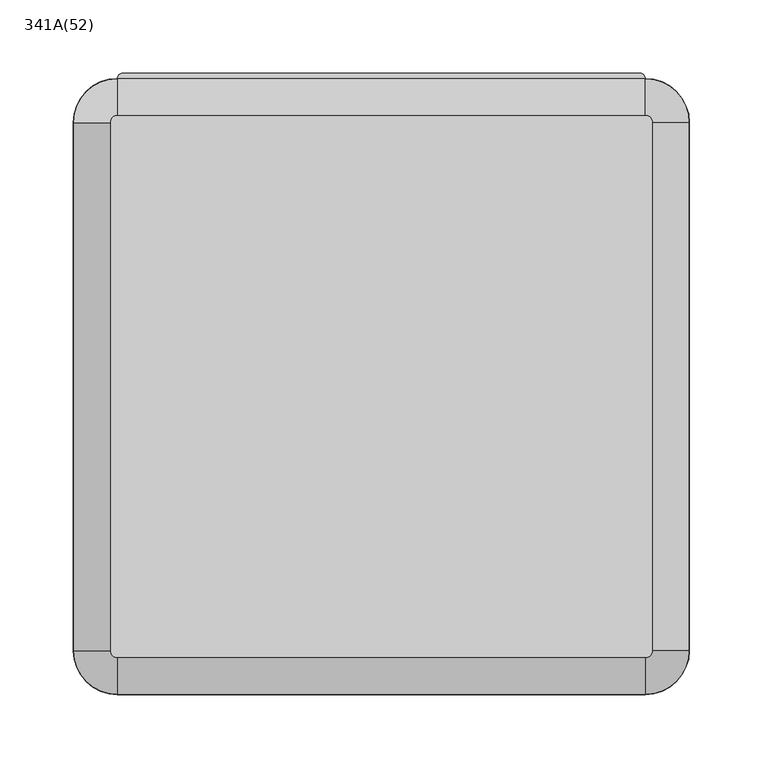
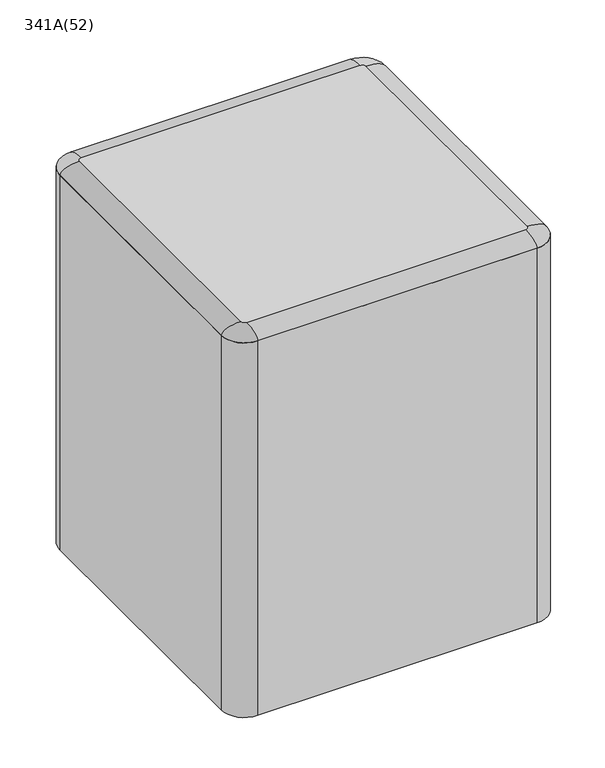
"""IFC4 building model written with IfcOpenShell, lengths in millimetres: furniture geometry, Bit Stool : 341A(52)."""

import ifcopenshell
import ifcopenshell.guid

model = None  # the IFC model being written
_history = None  # IfcOwnerHistory: only IFC2X3 demands one
_inside = {}  # id of a spatial element -> (the spatial element, [elements in it])
_under = {}  # id of a project, library or spatial element -> (it, [spatial elements below it])
_declared = {}  # id of a project -> (the project, [libraries it declares])
_typed = {}  # id of a type object -> (the type object, [elements of that type])
_made_of = {}  # id of a material, layer set ... -> (it, [elements and type objects made of it])


def new_model(schema):
    """Start an empty IFC model of exactly this schema.

    Asked for "IFC4X3", IfcOpenShell would pick the latest addendum, in which some entities
    have other attributes; the version numbers below select the first issue.
    IFC2X3 requires an IfcOwnerHistory on every rooted entity: one is made here for all.
    """
    global model, _history
    if schema == "IFC4X3":
        model = ifcopenshell.file(schema_version=(4, 3, 0, 0))
    else:
        model = ifcopenshell.file(schema=schema)
    _inside.clear()
    _under.clear()
    _declared.clear()
    _typed.clear()
    _made_of.clear()
    _history = None
    if model.schema == "IFC2X3":
        org = make("IfcOrganization", Name="unknown")
        user = make(
            "IfcPersonAndOrganization",
            ThePerson=make("IfcPerson", FamilyName="unknown"),
            TheOrganization=org,
        )
        app = make(
            "IfcApplication",
            ApplicationDeveloper=org,
            Version="unknown",
            ApplicationFullName="unknown",
            ApplicationIdentifier="unknown",
        )
        _history = make(
            "IfcOwnerHistory",
            OwningUser=user,
            OwningApplication=app,
            ChangeAction="ADDED",
            CreationDate=0,
        )
    return model


def make(cls, **values):
    """One entity of the class cls with the attributes given. An attribute that is None is left unset."""
    return model.create_entity(
        cls, **{name: value for name, value in values.items() if value is not None}
    )


def rooted(cls, **values):
    """An entity with a GlobalId (a new one), such as an element, a storey or a relation."""
    return make(cls, GlobalId=ifcopenshell.guid.new(), OwnerHistory=_history, **values)


def si_unit(unit_type, name, prefix=None):
    """IfcSIUnit, for example si_unit("LENGTHUNIT", "METRE", prefix="MILLI")."""
    return make("IfcSIUnit", UnitType=unit_type, Prefix=prefix, Name=name)


def assignment(units):
    """IfcUnitAssignment: the units of a project."""
    return None if units is None else make("IfcUnitAssignment", Units=units)


def point(xyz):
    """IfcCartesianPoint."""
    return None if xyz is None else make("IfcCartesianPoint", Coordinates=xyz)


def direction(xyz):
    """IfcDirection."""
    return None if xyz is None else make("IfcDirection", DirectionRatios=xyz)


def frame(location, z_axis=None, x_axis=None):
    """IfcAxis2Placement3D, a coordinate frame: its origin and axes. An axis left out is left unset."""
    return make(
        "IfcAxis2Placement3D",
        Location=point(location),
        Axis=direction(z_axis),
        RefDirection=direction(x_axis),
    )


def origin():
    """The frame at (0, 0, 0) with its axes left unset."""
    return frame((0.0, 0.0, 0.0))


def place(relative_to, where):
    """IfcLocalPlacement: puts the frame where relative to a parent placement (None: the world)."""
    return make(
        "IfcLocalPlacement", PlacementRelTo=relative_to, RelativePlacement=where
    )


def context(
    kind, dimensions, precision=None, world=None, true_north=None, identifier=None
):
    """IfcGeometricRepresentationContext, for example the 3D "Model" context."""
    return make(
        "IfcGeometricRepresentationContext",
        ContextIdentifier=identifier,
        ContextType=kind,
        CoordinateSpaceDimension=dimensions,
        Precision=precision,
        WorldCoordinateSystem=world,
        TrueNorth=true_north,
    )


def project(units=None, contexts=None):
    """IfcProject with its units and contexts."""
    return rooted(
        "IfcProject",
        Name="project",
        RepresentationContexts=contexts,
        UnitsInContext=assignment(units),
    )


def spatial(cls, under=None, at=None, **own):
    """A site, building, storey or space (cls), placed at a placement, below another one or the project."""
    s = rooted(cls, ObjectPlacement=at, **own)
    if under is not None:
        _under.setdefault(under.id(), (under, []))[1].append(s)
    return s


def polyline(points):
    """IfcPolyline through the points."""
    return make("IfcPolyline", Points=[point(p) for p in points])


def circle_curve(where, radius):
    """IfcCircle in the frame where."""
    return make("IfcCircle", Position=where, Radius=radius)


def ellipse_curve(where, semi_axis1, semi_axis2):
    """IfcEllipse in the frame where."""
    return make(
        "IfcEllipse", Position=where, SemiAxis1=semi_axis1, SemiAxis2=semi_axis2
    )


def trimmed(basis, trim1, trim2, sense, master):
    """IfcTrimmedCurve: the piece of a basis curve between two trims."""
    return make(
        "IfcTrimmedCurve",
        BasisCurve=basis,
        Trim1=trim1,
        Trim2=trim2,
        SenseAgreement=sense,
        MasterRepresentation=master,
    )


def shape(context_of_items, identifier, shape_type, items):
    """IfcShapeRepresentation: the items that make up one representation, for example the "Body"."""
    return make(
        "IfcShapeRepresentation",
        ContextOfItems=context_of_items,
        RepresentationIdentifier=identifier,
        RepresentationType=shape_type,
        Items=items,
    )


def source(mapping_origin, context_of_items, identifier, shape_type, items):
    """IfcRepresentationMap: a shape defined once, which mapped items show again and again."""
    return make(
        "IfcRepresentationMap",
        MappingOrigin=mapping_origin,
        MappedRepresentation=shape(context_of_items, identifier, shape_type, items),
    )


def transform(
    local_origin,
    x_axis=None,
    y_axis=None,
    z_axis=None,
    scale=None,
    scale2=None,
    scale3=None,
    uniform=True,
):
    """IfcCartesianTransformationOperator3D, or its non-uniform kind. x_axis, y_axis, z_axis: its Axis1, 2, 3."""
    if uniform:
        return make(
            "IfcCartesianTransformationOperator3D",
            Axis1=direction(x_axis),
            Axis2=direction(y_axis),
            LocalOrigin=point(local_origin),
            Scale=scale,
            Axis3=direction(z_axis),
        )
    return make(
        "IfcCartesianTransformationOperator3DnonUniform",
        Axis1=direction(x_axis),
        Axis2=direction(y_axis),
        LocalOrigin=point(local_origin),
        Scale=scale,
        Axis3=direction(z_axis),
        Scale2=scale2,
        Scale3=scale3,
    )


def mapped(mapping_source, mapping_target):
    """IfcMappedItem: shows the shape of a source again, moved by a transform."""
    return make(
        "IfcMappedItem", MappingSource=mapping_source, MappingTarget=mapping_target
    )


def made_of(thing, what):
    """Note that an element or type object is made of a material, layer set ...; save() writes the relation."""
    if what is not None:
        _made_of.setdefault(what.id(), (what, []))[1].append(thing)
    return thing


def element(
    cls,
    number,
    at=None,
    inside=None,
    cuts=None,
    type_object=None,
    material=None,
    context=None,
    identifier="Body",
    shape_type=None,
    held_by="IfcProductDefinitionShape",
    body=None,
    shapes=None,
    **own,
):
    """One element of the class cls, such as IfcWall. Its Tag is "e" and its number.

    at: its placement. inside: the storey or other place that contains it. cuts: it is an
    opening in that element (IfcRelVoidsElement). A single representation is given by context,
    identifier, shape_type and body (its items); several are given by shapes. held_by: the class
    of the entity that holds the representations. save() writes the other relations.
    """
    e = rooted(cls, Tag="e%d" % number, ObjectPlacement=at, **own)
    if body is not None:
        shapes = [shape(context, identifier, shape_type, body)]
    if shapes is not None:
        e.Representation = make(held_by, Representations=shapes)
    if inside is not None:
        _inside.setdefault(inside.id(), (inside, []))[1].append(e)
    if cuts is not None:
        rooted(
            "IfcRelVoidsElement", RelatingBuildingElement=cuts, RelatedOpeningElement=e
        )
    if type_object is not None:
        _typed.setdefault(type_object.id(), (type_object, []))[1].append(e)
    return made_of(e, material)


def aggregate(whole, parts):
    """IfcRelAggregates: a whole, such as a stair, and the parts it consists of."""
    return rooted("IfcRelAggregates", RelatingObject=whole, RelatedObjects=parts)


def save(model, path):
    """Write the relations noted so far, then the file.

    IfcRelAggregates (storeys below a building ...), IfcRelContainedInSpatialStructure (elements
    in a storey), IfcRelDefinesByType, IfcRelAssociatesMaterial and IfcRelDeclares: one each for
    every whole, place, type object, material and project.
    """
    for whole, parts in _under.values():
        aggregate(whole, parts)
    for where, things in _inside.values():
        rooted(
            "IfcRelContainedInSpatialStructure",
            RelatedElements=things,
            RelatingStructure=where,
        )
    for kind, things in _typed.values():
        rooted("IfcRelDefinesByType", RelatedObjects=things, RelatingType=kind)
    for what, things in _made_of.values():
        rooted("IfcRelAssociatesMaterial", RelatedObjects=things, RelatingMaterial=what)
    for by, libraries in _declared.values():
        rooted("IfcRelDeclares", RelatingContext=by, RelatedDefinitions=libraries)
    model.write(path)


def plane_surface(at):
    """IfcPlane: the flat surface through the origin of the frame at, square to its z axis."""
    return make("IfcPlane", Position=at)


def cylinder_surface(at, radius):
    """IfcCylindricalSurface: all points at the distance radius from the z axis of the frame at."""
    return make("IfcCylindricalSurface", Position=at, Radius=radius)


def revolved_surface(curve, axis_point, axis_direction):
    """IfcSurfaceOfRevolution: the curve turned about the line through axis_point along axis_direction."""
    return make(
        "IfcSurfaceOfRevolution",
        SweptCurve=make("IfcArbitraryOpenProfileDef", ProfileType="CURVE", Curve=curve),
        AxisPosition=make("IfcAxis1Placement", Location=point(axis_point), Axis=direction(axis_direction)),
    )


def extruded_surface(curve, direction_of_extrusion, depth):
    """IfcSurfaceOfLinearExtrusion: the curve pushed along a direction by depth."""
    return make(
        "IfcSurfaceOfLinearExtrusion",
        SweptCurve=make("IfcArbitraryOpenProfileDef", ProfileType="CURVE", Curve=curve),
        ExtrudedDirection=direction(direction_of_extrusion),
        Depth=depth,
    )


def advanced_brep(points, edges, surfaces, faces):
    """IfcAdvancedBrep: a solid bounded by faces that lie on surfaces and meet in shared edges.

    An edge is (start, end): straight between two places in points (the first is 0);
    or (start, end, curve); or (start, end, curve, False) where it runs against its curve.
    A face is (place in surfaces, loops), or (place, loops, False) where it looks against
    its surface's normal. A loop lists edges by number (the first is 1), with a minus sign
    where the edge is run from its end to its start. The first loop is the outer one.
    """
    corners = [point(p) for p in points]
    vertices = [make("IfcVertexPoint", VertexGeometry=c) for c in corners]
    made = []
    for start, end, *more in edges:
        made.append(
            make(
                "IfcEdgeCurve",
                EdgeStart=vertices[start],
                EdgeEnd=vertices[end],
                EdgeGeometry=more[0] if more else make("IfcPolyline", Points=[corners[start], corners[end]]),
                SameSense=more[1] if len(more) > 1 else True,
            )
        )
    hull = []
    for where, loops, *sense in faces:
        bounds = []
        for j, loop in enumerate(loops):
            ring = [make("IfcOrientedEdge", EdgeElement=made[abs(k) - 1], Orientation=k > 0) for k in loop]
            bounds.append(
                make(
                    "IfcFaceOuterBound" if j == 0 else "IfcFaceBound",
                    Bound=make("IfcEdgeLoop", EdgeList=ring),
                    Orientation=True,
                )
            )
        hull.append(make("IfcAdvancedFace", Bounds=bounds, FaceSurface=surfaces[where], SameSense=sense[0] if sense else True))
    return make("IfcAdvancedBrep", Outer=make("IfcClosedShell", CfsFaces=hull))


def furniture_341a_52_5a10b852(model_context):
    return source(origin(), model_context, "Body", "AdvancedBrep", [
        advanced_brep(
        [(-161.4644661, 213.5355339, 420.0), (161.4644661, 213.5355339, 420.0), (176.4644661, 213.5355339, 420.0), (180.0, 210.0, 420.0), (161.9807576, 210.0, 420.0), (-161.9807576, 210.0, 420.0), (-180.0, 210.0, 420.0), (-176.4644661, 213.5355339, 420.0), (-161.4644661, 213.5355339, 460.0), (-176.4644661, 213.5355339, 460.0), (-180.0, 210.0, 460.0), (-161.9807576, 210.0, 460.0), (161.9807576, 210.0, 460.0), (180.0, 210.0, 460.0), (176.4644661, 213.5355339, 460.0), (161.4644661, 213.5355339, 460.0), (180.0, 210.0, 510.0), (-180.0, 210.0, 510.0), (-210.0, 180.0, 510.0), (-210.0, -180.0, 510.0), (-180.0, -210.0, 510.0), (180.0, -210.0, 510.0), (210.0, -180.0, 510.0), (210.0, 180.0, 510.0), (180.0, 210.0, 0.0), (210.0, 180.0, 0.0), (210.0, -180.0, 0.0), (180.0, -210.0, 0.0), (-180.0, -210.0, 0.0), (-210.0, -180.0, 0.0), (-210.0, 180.0, 0.0), (-180.0, 210.0, 0.0)],
        [
            (0, 1, circle_curve(frame((0.0, -2596.3093924, 420.0), z_axis=(0.0, 0.0, -1.0), x_axis=(1.0, 0.0, 0.0)), 2814.4802866)),
            (1, 2),
            (2, 3, circle_curve(frame((176.4644661, 210.0, 420.0), z_axis=(0.0, 0.0, -1.0), x_axis=(1.0, 0.0, 0.0)), 3.5355339)),
            (3, 4),
            (4, 5, circle_curve(frame((0.0, -2596.3093924, 420.0), z_axis=(0.0, 0.0, 1.0), x_axis=(1.0, 0.0, 0.0)), 2810.9802866)),
            (5, 6),
            (6, 7, circle_curve(frame((-176.4644661, 210.0, 420.0), z_axis=(0.0, 0.0, -1.0), x_axis=(1.0, 0.0, 0.0)), 3.5355339)),
            (7, 0),
            (8, 9),
            (9, 10, circle_curve(frame((-176.4644661, 210.0, 460.0), z_axis=(0.0, 0.0, 1.0), x_axis=(1.0, 0.0, 0.0)), 3.5355339)),
            (10, 11),
            (11, 12, circle_curve(frame((0.0, -2596.3093924, 460.0), z_axis=(0.0, 0.0, -1.0), x_axis=(1.0, 0.0, 0.0)), 2810.9802866)),
            (12, 13),
            (13, 14, circle_curve(frame((176.4644661, 210.0, 460.0), z_axis=(0.0, 0.0, 1.0), x_axis=(1.0, 0.0, 0.0)), 3.5355339)),
            (14, 15),
            (15, 8, circle_curve(frame((0.0, -2596.3093924, 460.0), z_axis=(0.0, 0.0, 1.0), x_axis=(1.0, 0.0, 0.0)), 2814.4802866)),
            (7, 9),
            (8, 0),
            (6, 10),
            (2, 14),
            (13, 3),
            (1, 15),
            (16, 17),
            (17, 18, circle_curve(frame((-180.0, 180.0, 510.0), z_axis=(0.0, 0.0, 1.0), x_axis=(1.0, 0.0, 0.0)), 30.0)),
            (18, 19),
            (19, 20, circle_curve(frame((-180.0, -180.0, 510.0), z_axis=(0.0, 0.0, 1.0), x_axis=(1.0, 0.0, 0.0)), 30.0)),
            (20, 21),
            (21, 22, circle_curve(frame((180.0, -180.0, 510.0), z_axis=(0.0, 0.0, 1.0), x_axis=(1.0, 0.0, 0.0)), 30.0)),
            (22, 23),
            (23, 16, circle_curve(frame((180.0, 180.0, 510.0), z_axis=(0.0, 0.0, 1.0), x_axis=(1.0, 0.0, 0.0)), 30.0)),
            (24, 25, circle_curve(frame((180.0, 180.0, 0.0), z_axis=(0.0, 0.0, -1.0), x_axis=(1.0, 0.0, 0.0)), 30.0)),
            (25, 26),
            (26, 27, circle_curve(frame((180.0, -180.0, 0.0), z_axis=(0.0, 0.0, -1.0), x_axis=(1.0, 0.0, 0.0)), 30.0)),
            (27, 28),
            (28, 29, circle_curve(frame((-180.0, -180.0, 0.0), z_axis=(0.0, 0.0, -1.0), x_axis=(1.0, 0.0, 0.0)), 30.0)),
            (29, 30),
            (30, 31, circle_curve(frame((-180.0, 180.0, 0.0), z_axis=(0.0, 0.0, -1.0), x_axis=(1.0, 0.0, 0.0)), 30.0)),
            (31, 24),
            (16, 13),
            (12, 4),
            (3, 24),
            (31, 6),
            (5, 11),
            (10, 17),
            (30, 18),
            (29, 19),
            (28, 20),
            (27, 21),
            (26, 22),
            (25, 23),
        ],
        [
            plane_surface(frame((-176.4644661, 213.5355339, 420.0), z_axis=(0.0, 0.0, -1.0), x_axis=(1.0, 0.0, 0.0))),
            plane_surface(frame((-176.4644661, 213.5355339, 460.0), z_axis=(0.0, 0.0, 1.0), x_axis=(-1.0, 0.0, 0.0))),
            plane_surface(frame((-161.4644661, 213.5355339, 460.0), z_axis=(0.0, 1.0, 0.0), x_axis=(0.0, 0.0, -1.0))),
            cylinder_surface(frame((-176.4644661, 210.0, 420.0), z_axis=(0.0, 0.0, 1.0), x_axis=(1.0, 0.0, 0.0)), 3.5355339),
            cylinder_surface(frame((176.4644661, 210.0, 420.0), z_axis=(0.0, 0.0, 1.0), x_axis=(1.0, 0.0, 0.0)), 3.5355339),
            plane_surface(frame((176.4644661, 213.5355339, 460.0), z_axis=(0.0, 1.0, 0.0), x_axis=(0.0, 0.0, -1.0))),
            cylinder_surface(frame((0.0, -2596.3093924, 420.0), z_axis=(0.0, 0.0, 1.0), x_axis=(1.0, 0.0, 0.0)), 2814.4802866),
            plane_surface(frame((-180.0, 210.0, 510.0), z_axis=(0.0, 0.0, 1.0), x_axis=(-1.0, 0.0, 0.0))),
            plane_surface(frame((-180.0, 210.0, 0.0), z_axis=(0.0, 0.0, -1.0), x_axis=(1.0, 0.0, 0.0))),
            plane_surface(frame((180.0, 210.0, 510.0), z_axis=(0.0, 1.0, 0.0), x_axis=(0.0, 0.0, -1.0))),
            cylinder_surface(frame((-180.0, 180.0, 0.0), z_axis=(0.0, 0.0, 1.0), x_axis=(1.0, 0.0, 0.0)), 30.0),
            plane_surface(frame((-210.0, 180.0, 510.0), z_axis=(-1.0, 0.0, 0.0), x_axis=(0.0, 0.0, -1.0))),
            cylinder_surface(frame((-180.0, -180.0, 0.0), z_axis=(0.0, 0.0, 1.0), x_axis=(1.0, 0.0, 0.0)), 30.0),
            plane_surface(frame((-180.0, -210.0, 510.0), z_axis=(0.0, -1.0, 0.0), x_axis=(0.0, 0.0, -1.0))),
            cylinder_surface(frame((180.0, -180.0, 0.0), z_axis=(0.0, 0.0, 1.0), x_axis=(1.0, 0.0, 0.0)), 30.0),
            plane_surface(frame((210.0, -180.0, 510.0), z_axis=(1.0, 0.0, 0.0), x_axis=(0.0, 0.0, -1.0))),
            cylinder_surface(frame((180.0, 180.0, 0.0), z_axis=(0.0, 0.0, 1.0), x_axis=(1.0, 0.0, 0.0)), 30.0),
            revolved_surface(polyline([(2810.9802866, -2596.3093924, 420.0), (2810.9802866, -2596.3093924, 460.0)]), (0.0, -2596.3093924, 420.0), (0.0, 0.0, -1.0)),
        ],
        [
            (0, [[1, 2, 3, 4, 5, 6, 7, 8]]),
            (1, [[9, 10, 11, 12, 13, 14, 15, 16]]),
            (2, [[-8, 17, -9, 18]]),
            (3, [[-7, 19, -10, -17]]),
            (4, [[-3, 20, -14, 21]]),
            (5, [[-2, 22, -15, -20]]),
            (6, [[-1, -18, -16, -22]]),
            (7, [[23, 24, 25, 26, 27, 28, 29, 30]]),
            (8, [[31, 32, 33, 34, 35, 36, 37, 38]]),
            (9, [[-23, 39, -13, 40, -4, 41, -38, 42, -6, 43, -11, 44]]),
            (10, [[-24, -44, -19, -42, -37, 45]]),
            (11, [[-25, -45, -36, 46]]),
            (12, [[-26, -46, -35, 47]]),
            (13, [[-27, -47, -34, 48]]),
            (14, [[-28, -48, -33, 49]]),
            (15, [[-29, -49, -32, 50]]),
            (16, [[-30, -50, -31, -41, -21, -39]]),
            (17, [[-5, -40, -12, -43]]),
        ],
    ),
        advanced_brep(
        [(-180.0, 185.0, 520.0), (-180.0, 210.0, 510.0), (-210.0, 180.0, 510.0), (-185.0, 180.0, 520.0), (-210.0, -180.0, 510.0), (-185.0, -180.0, 520.0), (-180.0, -210.0, 510.0), (-180.0, -185.0, 520.0), (180.0, -210.0, 510.0), (180.0, -185.0, 520.0), (210.0, -180.0, 510.0), (185.0, -180.0, 520.0), (210.0, 180.0, 510.0), (185.0, 180.0, 520.0), (180.0, 210.0, 510.0), (180.0, 185.0, 520.0)],
        [
            (0, 1, ellipse_curve(frame((-180.0, 185.0, 510.0), z_axis=(-1.0, 0.0, 0.0), x_axis=(0.0, 1.0, 0.0)), 25.0, 10.0)),
            (1, 2, circle_curve(frame((-180.0, 180.0, 510.0), z_axis=(0.0, 0.0, 1.0), x_axis=(0.0, 1.0, 0.0)), 30.0)),
            (2, 3, ellipse_curve(frame((-185.0, 180.0, 510.0), z_axis=(0.0, 1.0, 0.0), x_axis=(-1.0, 0.0, 0.0)), 25.0, 10.0)),
            (3, 0, circle_curve(frame((-180.0, 180.0, 520.0), z_axis=(0.0, 0.0, -1.0), x_axis=(0.0, 1.0, 0.0)), 5.0)),
            (2, 4),
            (4, 5, ellipse_curve(frame((-185.0, -180.0, 510.0), z_axis=(0.0, 1.0, 0.0), x_axis=(-1.0, 0.0, 0.0)), 25.0, 10.0)),
            (5, 3),
            (4, 6, circle_curve(frame((-180.0, -180.0, 510.0), z_axis=(0.0, 0.0, 1.0), x_axis=(-1.0, 0.0, 0.0)), 30.0)),
            (6, 7, ellipse_curve(frame((-180.0, -185.0, 510.0), z_axis=(-1.0, 0.0, 0.0), x_axis=(0.0, -1.0, 0.0)), 25.0, 10.0)),
            (7, 5, circle_curve(frame((-180.0, -180.0, 520.0), z_axis=(0.0, 0.0, -1.0), x_axis=(-1.0, 0.0, 0.0)), 5.0)),
            (6, 8),
            (8, 9, ellipse_curve(frame((180.0, -185.0, 510.0), z_axis=(-1.0, 0.0, 0.0), x_axis=(0.0, -1.0, 0.0)), 25.0, 10.0)),
            (9, 7),
            (8, 10, circle_curve(frame((180.0, -180.0, 510.0), z_axis=(0.0, 0.0, 1.0), x_axis=(0.0, -1.0, 0.0)), 30.0)),
            (10, 11, ellipse_curve(frame((185.0, -180.0, 510.0), z_axis=(0.0, -1.0, 0.0), x_axis=(1.0, 0.0, 0.0)), 25.0, 10.0)),
            (11, 9, circle_curve(frame((180.0, -180.0, 520.0), z_axis=(0.0, 0.0, -1.0), x_axis=(0.0, -1.0, 0.0)), 5.0)),
            (10, 12),
            (12, 13, ellipse_curve(frame((185.0, 180.0, 510.0), z_axis=(0.0, -1.0, 0.0), x_axis=(1.0, 0.0, 0.0)), 25.0, 10.0)),
            (13, 11),
            (12, 14, circle_curve(frame((180.0, 180.0, 510.0), z_axis=(0.0, 0.0, 1.0), x_axis=(1.0, 0.0, 0.0)), 30.0)),
            (14, 15, ellipse_curve(frame((180.0, 185.0, 510.0), z_axis=(1.0, 0.0, 0.0), x_axis=(0.0, 1.0, 0.0)), 25.0, 10.0)),
            (15, 13, circle_curve(frame((180.0, 180.0, 520.0), z_axis=(0.0, 0.0, -1.0), x_axis=(1.0, 0.0, 0.0)), 5.0)),
            (1, 14),
            (0, 15),
        ],
        [
            revolved_surface(trimmed(ellipse_curve(frame((-180.0, 185.0, 510.0), z_axis=(1.0, 0.0, 0.0), x_axis=(0.0, 1.0, 0.0)), 25.0, 10.0), [point((-180.0, 210.0, 510.0))], [point((-180.0, 185.0, 520.0))], True, "CARTESIAN"), (-180.0, 180.0, 510.0), (0.0, 0.0, 1.0)),
            extruded_surface(trimmed(ellipse_curve(frame((-185.0, -180.0, 510.0), z_axis=(0.0, 1.0, 0.0), x_axis=(-1.0, 0.0, 0.0)), 25.0, 10.0), [point((-210.0, -180.0, 510.0))], [point((-185.0, -180.0, 520.0))], True, "CARTESIAN"), (0.0, 360.0, 0.0), 360.0),
            revolved_surface(trimmed(ellipse_curve(frame((-185.0, -180.0, 510.0), z_axis=(0.0, 1.0, 0.0), x_axis=(-1.0, 0.0, 0.0)), 25.0, 10.0), [point((-210.0, -180.0, 510.0))], [point((-185.0, -180.0, 520.0))], True, "CARTESIAN"), (-180.0, -180.0, 510.0), (0.0, 0.0, 1.0)),
            extruded_surface(trimmed(ellipse_curve(frame((180.0, -185.0, 510.0), z_axis=(-1.0, 0.0, 0.0), x_axis=(0.0, -1.0, 0.0)), 25.0, 10.0), [point((180.0, -210.0, 510.0))], [point((180.0, -185.0, 520.0))], True, "CARTESIAN"), (-360.0, 0.0, 0.0), 360.0),
            revolved_surface(trimmed(ellipse_curve(frame((180.0, -185.0, 510.0), z_axis=(-1.0, 0.0, 0.0), x_axis=(0.0, -1.0, 0.0)), 25.0, 10.0), [point((180.0, -210.0, 510.0))], [point((180.0, -185.0, 520.0))], True, "CARTESIAN"), (180.0, -180.0, 510.0), (0.0, 0.0, 1.0)),
            extruded_surface(trimmed(ellipse_curve(frame((185.0, 180.0, 510.0), z_axis=(0.0, -1.0, 0.0), x_axis=(1.0, 0.0, 0.0)), 25.0, 10.0), [point((210.0, 180.0, 510.0))], [point((185.0, 180.0, 520.0))], True, "CARTESIAN"), (0.0, -360.0, 0.0), 360.0),
            revolved_surface(trimmed(ellipse_curve(frame((185.0, 180.0, 510.0), z_axis=(0.0, -1.0, 0.0), x_axis=(1.0, 0.0, 0.0)), 25.0, 10.0), [point((210.0, 180.0, 510.0))], [point((185.0, 180.0, 520.0))], True, "CARTESIAN"), (180.0, 180.0, 510.0), (0.0, 0.0, 1.0)),
            plane_surface(frame((180.0, 185.0, 510.0), z_axis=(0.0, 0.0, -1.0), x_axis=(-1.0, 0.0, 0.0))),
            extruded_surface(trimmed(ellipse_curve(frame((-180.0, 185.0, 510.0), z_axis=(1.0, 0.0, 0.0), x_axis=(0.0, 1.0, 0.0)), 25.0, 10.0), [point((-180.0, 210.0, 510.0))], [point((-180.0, 185.0, 520.0))], True, "CARTESIAN"), (360.0, 0.0, 0.0), 360.0),
            plane_surface(frame((-180.0, 185.0, 520.0), z_axis=(0.0, 0.0, 1.0), x_axis=(-1.0, 0.0, 0.0))),
        ],
        [
            (0, [[1, 2, 3, 4]]),
            (1, [[-3, 5, 6, 7]]),
            (2, [[-6, 8, 9, 10]]),
            (3, [[-9, 11, 12, 13]]),
            (4, [[-12, 14, 15, 16]]),
            (5, [[-15, 17, 18, 19]]),
            (6, [[-18, 20, 21, 22]]),
            (7, [[-2, 23, -20, -17, -14, -11, -8, -5]]),
            (8, [[-1, 24, -21, -23]]),
            (9, [[-4, -7, -10, -13, -16, -19, -22, -24]]),
        ],
    ),
    ])


if __name__ == "__main__":
    model = new_model("IFC4")
    model_context = context("Model", 3, world=origin())
    ifc_project = project(units=[si_unit("LENGTHUNIT", "METRE", prefix="MILLI")], contexts=[model_context])
    site = spatial("IfcSite", under=ifc_project)
    building = spatial("IfcBuilding", under=site)
    placement = place(None, origin())
    furniture_341a_52_shape = furniture_341a_52_5a10b852(model_context)
    element("IfcFurniture", 1, ObjectType="Bit Stool : 341A(52)", at=placement, inside=building, context=model_context, shape_type="MappedRepresentation", body=[
        mapped(furniture_341a_52_shape, transform((0.0, 0.0, 0.0), x_axis=(1.0, 0.0, 0.0), y_axis=(0.0, 1.0, 0.0), z_axis=(0.0, 0.0, 1.0))),
    ])
    save(model, "model.ifc")
